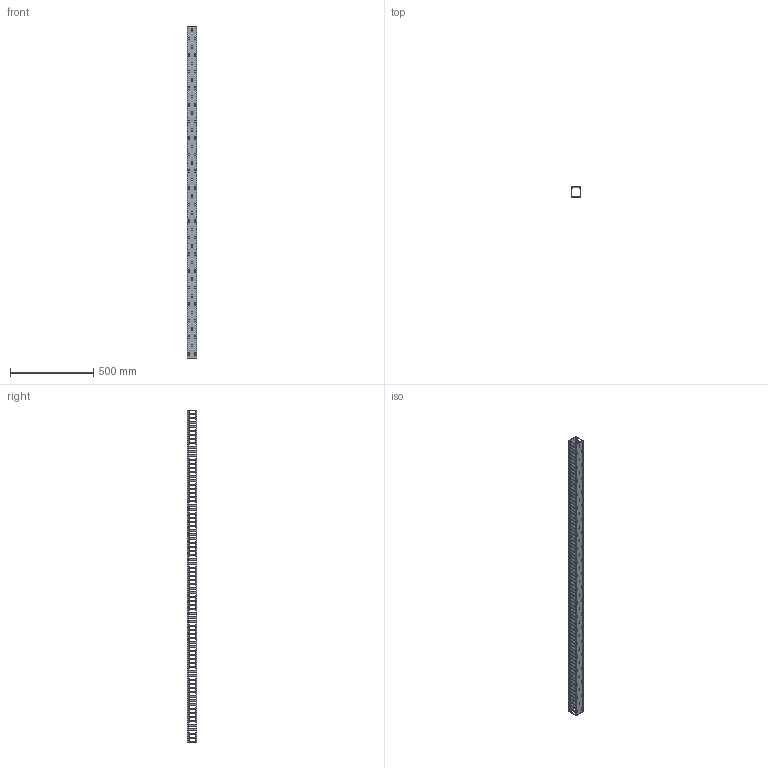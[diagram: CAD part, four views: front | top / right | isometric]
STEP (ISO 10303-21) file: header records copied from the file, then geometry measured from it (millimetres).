
FILE_DESCRIPTION (( 'STEP AP214' ), '1' );
FILE_NAME ('KD-66-20-LL.STEP', '2020-02-19T00:41:50', ( '' ), ( '' ), 'SwSTEP 2.0', 'SolidWorks 2018', '' );
FILE_SCHEMA (( 'AUTOMOTIVE_DESIGN' ));
Length unit declared in the file: millimetre
Products named in the file (3): KD-66-20-LL; KD-66-20-LL-body; KD-64-20-cover
Assembly tree (2 placements, depth 2):
  KD-66-20-LL
    KD-66-20-LL-body
    KD-64-20-cover
Bounding box: 60 x 60.17 x 2000 mm (x, y, z)
Volume: 705335.9 mm3; surface area: 899877.1 mm2
Topology: 2 solids, 2 shells, 1643 faces, 4917 edges, 3278 vertices
Faces by surface type: cylinder 857, plane 786
Entity records: 56835 total; most frequent: DIRECTION 9927, CARTESIAN_POINT 9843, ORIENTED_EDGE 9834, EDGE_CURVE 4917, AXIS2_PLACEMENT_3D 3362, VERTEX_POINT 3278, LINE 3203, VECTOR 3203
